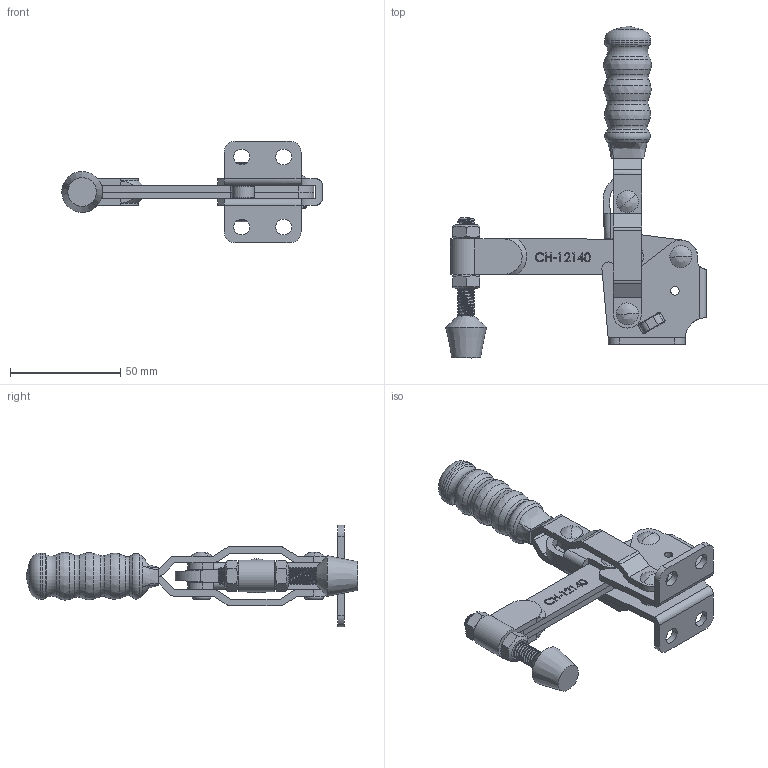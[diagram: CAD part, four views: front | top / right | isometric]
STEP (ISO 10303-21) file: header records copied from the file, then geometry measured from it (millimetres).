
FILE_DESCRIPTION(/* description */ ('STEP AP203'),/* implementation_level */ '2;1');
FILE_NAME(/* name */ 'D:\Vault_2016\Projekty\NASZ KATALOG\CLAMPTEK\STRONA\Vertical toggle clamp\CH-12140\CH-12140_ZAMKNIETY.stp',/* time_stamp */ '2019-01-18T12:27:33+01:00',/* author */ ('CADENGINEERING4'),/* organization */ ('Î¢ÈíÖÐ¹ú'),/* preprocessor_version */ 'ST-DEVELOPER v17.2',/* originating_system */ 'Autodesk Inventor 2019',/* authorisation */ '');
FILE_SCHEMA (('AUTOMOTIVE_DESIGN { 1 0 10303 214 3 1 1 }'));
Products named in the file (11): CH-12140_ZAMKNIETY; CH-FC-56212 SPINDLE SUPPLIED; CH-12130-04 CONNECTING-PLATE; CH-12130-06; CH-12130-08; CH-12130-03 STRAIGHT HANDLE; CH-12130-07; CH-12140-02 SHORT SOLID BAR_Ä¬ÈÏ_°
´¼Ó¹¤_; CH-FC-56212 Nut; CH-12130-01 FLANGED BASE; CH-12130-05
Assembly tree (13 placements, depth 2):
  CH-12140_ZAMKNIETY
    CH-FC-56212 SPINDLE SUPPLIED
    CH-12130-06  x2
    CH-12130-08  x2
    CH-12130-04 CONNECTING-PLATE
    CH-12130-03 STRAIGHT HANDLE
    CH-12130-07
    CH-12140-02 SHORT SOLID BAR_Ä¬ÈÏ_°
´¼Ó¹¤_
    CH-FC-56212 Nut  x2
    CH-12130-01 FLANGED BASE
    CH-12130-05
Bounding box: 118.17 x 150.61 x 46 mm (x, y, z)
Volume: 60557.5 mm3; surface area: 45851.9 mm2
Topology: 19 solids, 19 shells, 686 faces, 1906 edges, 1282 vertices
Faces by surface type: plane 300, bspline 179, cylinder 150, cone 32, torus 25
Full cylindrical faces by diameter (mm): 1.55 x1, 1.744 x1, 3.9 x2, 6.3 x6, 6.4 x20, 6.8 x1, 7.2 x4, 7.92 x32, 8.4 x2, 10 x1, 20.847 x1
Entity records: 45755 total; most frequent: CARTESIAN_POINT 29707, ORIENTED_EDGE 3582, DIRECTION 2700, EDGE_CURVE 1791, VERTEX_POINT 1210, LINE 964, VECTOR 964, AXIS2_PLACEMENT_3D 868
